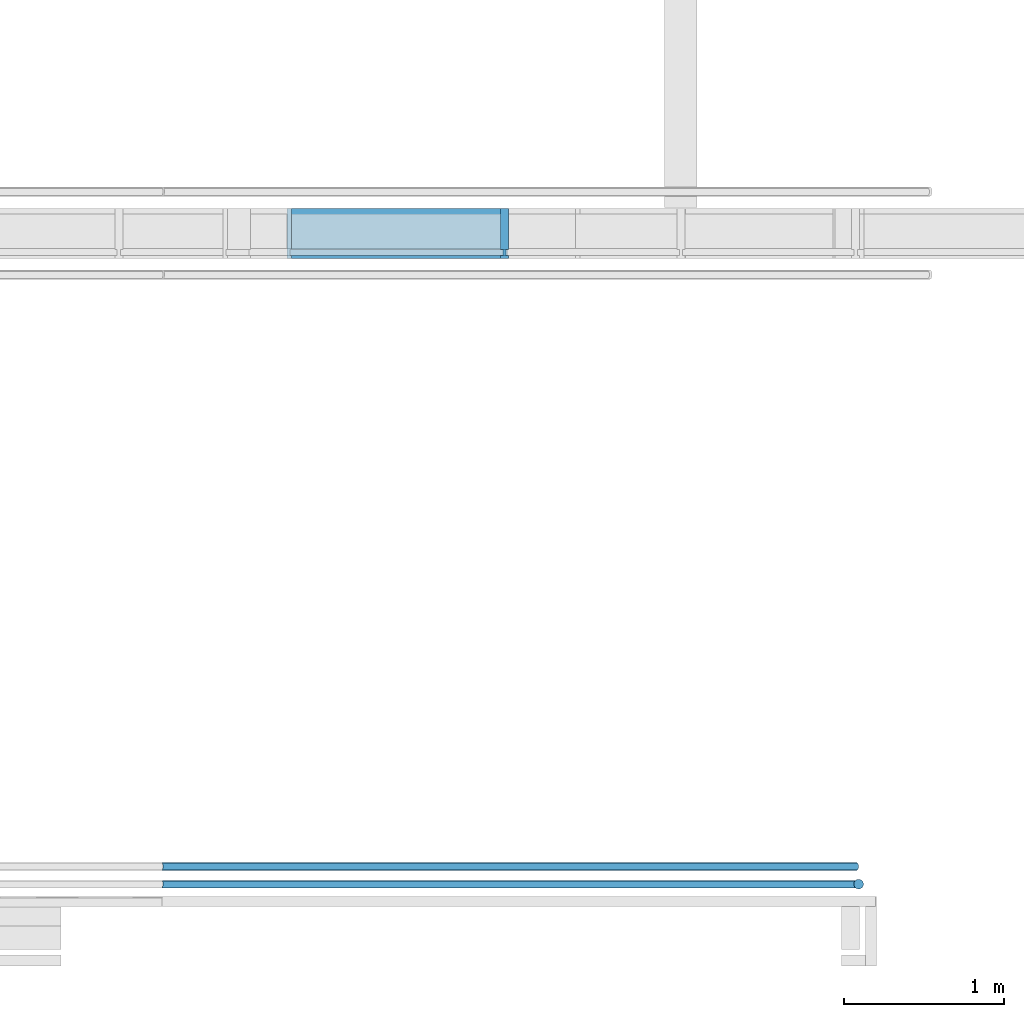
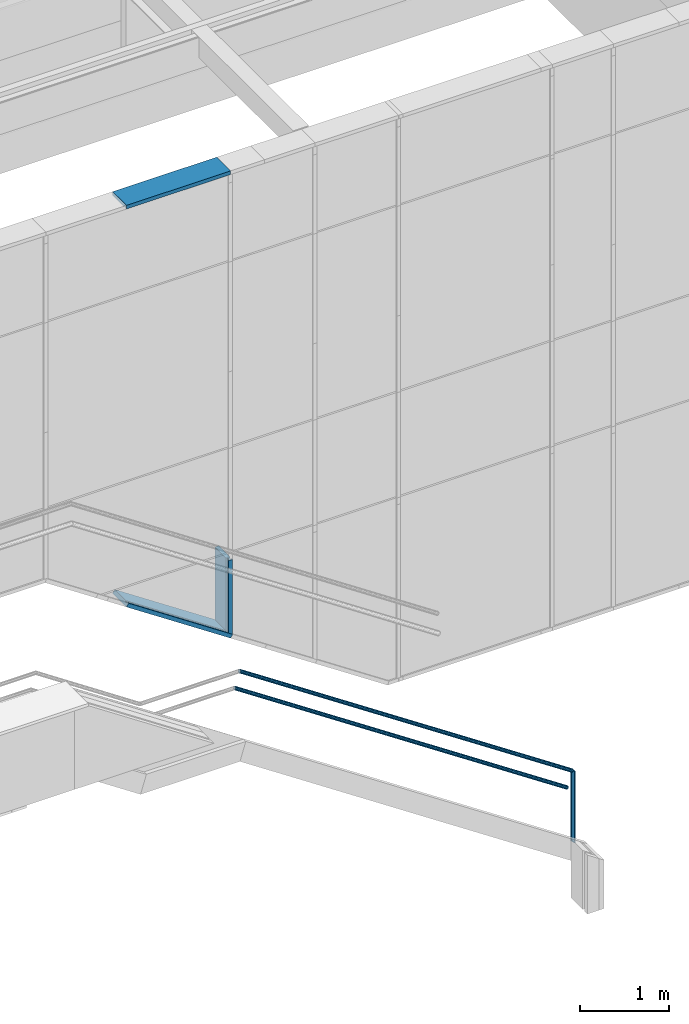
# One storey, part 16 of 137: 6 members, 2 elements without a shape of their own.
"""IFC2X3 building model written with IfcOpenShell, lengths in millimetres."""

import ifcopenshell
import ifcopenshell.guid

model = None  # the IFC model being written
_history = None  # IfcOwnerHistory: only IFC2X3 demands one
_inside = {}  # id of a spatial element -> (the spatial element, [elements in it])
_under = {}  # id of a project, library or spatial element -> (it, [spatial elements below it])
_declared = {}  # id of a project -> (the project, [libraries it declares])
_typed = {}  # id of a type object -> (the type object, [elements of that type])
_made_of = {}  # id of a material, layer set ... -> (it, [elements and type objects made of it])


def new_model(schema):
    """Start an empty IFC model of exactly this schema.

    Asked for "IFC4X3", IfcOpenShell would pick the latest addendum, in which some entities
    have other attributes; the version numbers below select the first issue.
    IFC2X3 requires an IfcOwnerHistory on every rooted entity: one is made here for all.
    """
    global model, _history
    if schema == "IFC4X3":
        model = ifcopenshell.file(schema_version=(4, 3, 0, 0))
    else:
        model = ifcopenshell.file(schema=schema)
    _inside.clear()
    _under.clear()
    _declared.clear()
    _typed.clear()
    _made_of.clear()
    _history = None
    if model.schema == "IFC2X3":
        org = make("IfcOrganization", Name="unknown")
        user = make(
            "IfcPersonAndOrganization",
            ThePerson=make("IfcPerson", FamilyName="unknown"),
            TheOrganization=org,
        )
        app = make(
            "IfcApplication",
            ApplicationDeveloper=org,
            Version="unknown",
            ApplicationFullName="unknown",
            ApplicationIdentifier="unknown",
        )
        _history = make(
            "IfcOwnerHistory",
            OwningUser=user,
            OwningApplication=app,
            ChangeAction="ADDED",
            CreationDate=0,
        )
    return model


def make(cls, **values):
    """One entity of the class cls with the attributes given. An attribute that is None is left unset."""
    return model.create_entity(
        cls, **{name: value for name, value in values.items() if value is not None}
    )


def entity(cls, *values):
    """Any entity or typed value of the class cls, its attributes in the order of the schema. None: left unset."""
    e = model.create_entity(cls)
    for i, value in enumerate(values):
        if value is not None:
            e[i] = value
    return e


def rooted(cls, **values):
    """An entity with a GlobalId (a new one), such as an element, a storey or a relation."""
    return make(cls, GlobalId=ifcopenshell.guid.new(), OwnerHistory=_history, **values)


def si_unit(unit_type, name, prefix=None):
    """IfcSIUnit, for example si_unit("LENGTHUNIT", "METRE", prefix="MILLI")."""
    return make("IfcSIUnit", UnitType=unit_type, Prefix=prefix, Name=name)


def converted_unit(unit_type, name, factor, base, dimensions=None, offset=None):
    """IfcConversionBasedUnit, such as the inch: factor (a typed value) times the base unit."""
    return make(
        "IfcConversionBasedUnit"
        if offset is None
        else "IfcConversionBasedUnitWithOffset",
        ConversionOffset=offset,
        Dimensions=None
        if dimensions is None
        else entity("IfcDimensionalExponents", *dimensions),
        UnitType=unit_type,
        Name=name,
        ConversionFactor=make(
            "IfcMeasureWithUnit", ValueComponent=factor, UnitComponent=base
        ),
    )


def derived_unit(unit_type, elements):
    """IfcDerivedUnit: a product of units, each with its exponent."""
    return make(
        "IfcDerivedUnit",
        Elements=[
            make("IfcDerivedUnitElement", Unit=unit, Exponent=power)
            for unit, power in elements
        ],
        UnitType=unit_type,
    )


def money_unit(currency):
    """IfcMonetaryUnit."""
    return make("IfcMonetaryUnit", Currency=currency)


def assignment(units):
    """IfcUnitAssignment: the units of a project."""
    return None if units is None else make("IfcUnitAssignment", Units=units)


def point(xyz):
    """IfcCartesianPoint."""
    return None if xyz is None else make("IfcCartesianPoint", Coordinates=xyz)


def direction(xyz):
    """IfcDirection."""
    return None if xyz is None else make("IfcDirection", DirectionRatios=xyz)


def frame(location, z_axis=None, x_axis=None):
    """IfcAxis2Placement3D, a coordinate frame: its origin and axes. An axis left out is left unset."""
    return make(
        "IfcAxis2Placement3D",
        Location=point(location),
        Axis=direction(z_axis),
        RefDirection=direction(x_axis),
    )


def origin_with_axes():
    """The frame at (0, 0, 0) with the z axis (0, 0, 1) and the x axis (1, 0, 0) written out."""
    return frame((0.0, 0.0, 0.0), z_axis=(0.0, 0.0, 1.0), x_axis=(1.0, 0.0, 0.0))


def place(relative_to, where):
    """IfcLocalPlacement: puts the frame where relative to a parent placement (None: the world)."""
    return make(
        "IfcLocalPlacement", PlacementRelTo=relative_to, RelativePlacement=where
    )


def context(
    kind, dimensions, precision=None, world=None, true_north=None, identifier=None
):
    """IfcGeometricRepresentationContext, for example the 3D "Model" context."""
    return make(
        "IfcGeometricRepresentationContext",
        ContextIdentifier=identifier,
        ContextType=kind,
        CoordinateSpaceDimension=dimensions,
        Precision=precision,
        WorldCoordinateSystem=world,
        TrueNorth=true_north,
    )


def subcontext(parent, identifier, kind, view, scale=None):
    """IfcGeometricRepresentationSubContext, for example "Body" below "Model"."""
    return make(
        "IfcGeometricRepresentationSubContext",
        ContextIdentifier=identifier,
        ContextType=kind,
        ParentContext=parent,
        TargetScale=scale,
        TargetView=view,
    )


def project(units=None, contexts=None):
    """IfcProject with its units and contexts."""
    return rooted(
        "IfcProject",
        Name="project",
        RepresentationContexts=contexts,
        UnitsInContext=assignment(units),
    )


def spatial(cls, under=None, at=None, **own):
    """A site, building, storey or space (cls), placed at a placement, below another one or the project."""
    s = rooted(cls, ObjectPlacement=at, **own)
    if under is not None:
        _under.setdefault(under.id(), (under, []))[1].append(s)
    return s


def faces_of(points, faces, orient=None, outer=None):
    """IfcFace entities. A face is a list of loops; a loop is a list of indices into points, from 0.

    orient and outer hold one flag for each loop. By default every Orientation is true, the
    first loop of a face is its IfcFaceOuterBound and the others are IfcFaceBound.
    """
    made = []
    for i, loops in enumerate(faces):
        bounds = []
        for j, loop in enumerate(loops):
            is_outer = j == 0 if outer is None else outer[i][j]
            bounds.append(
                make(
                    "IfcFaceOuterBound" if is_outer else "IfcFaceBound",
                    Bound=make("IfcPolyLoop", Polygon=[points[k] for k in loop]),
                    Orientation=True if orient is None else orient[i][j],
                )
            )
        made.append(make("IfcFace", Bounds=bounds))
    return made


def faceted_brep(points, faces, orient=None, outer=None, voids=None):
    """IfcFacetedBrep: a solid bounded by flat faces; with voids (closed shells), ...WithVoids."""
    shared = [point(p) for p in points]
    hull = make("IfcClosedShell", CfsFaces=faces_of(shared, faces, orient, outer))
    if voids is None:
        return make("IfcFacetedBrep", Outer=hull)
    return make(
        "IfcFacetedBrepWithVoids",
        Outer=hull,
        Voids=[
            make(cls, CfsFaces=faces_of(shared, fs, o, b)) for cls, fs, o, b in voids
        ],
    )


def shape(context_of_items, identifier, shape_type, items):
    """IfcShapeRepresentation: the items that make up one representation, for example the "Body"."""
    return make(
        "IfcShapeRepresentation",
        ContextOfItems=context_of_items,
        RepresentationIdentifier=identifier,
        RepresentationType=shape_type,
        Items=items,
    )


def material(Name=None, Category=None):
    """IfcMaterial."""
    return make("IfcMaterial", Name=Name, Category=Category)


def made_of(thing, what):
    """Note that an element or type object is made of a material, layer set ...; save() writes the relation."""
    if what is not None:
        _made_of.setdefault(what.id(), (what, []))[1].append(thing)
    return thing


def type_object(cls, material=None, **own):
    """A type object (cls), such as IfcWallType, which elements share."""
    return made_of(rooted(cls, **own), material)


def element(
    cls,
    number,
    at=None,
    inside=None,
    cuts=None,
    type_object=None,
    material=None,
    context=None,
    identifier="Body",
    shape_type=None,
    held_by="IfcProductDefinitionShape",
    body=None,
    shapes=None,
    **own,
):
    """One element of the class cls, such as IfcWall. Its Tag is "e" and its number.

    at: its placement. inside: the storey or other place that contains it. cuts: it is an
    opening in that element (IfcRelVoidsElement). A single representation is given by context,
    identifier, shape_type and body (its items); several are given by shapes. held_by: the class
    of the entity that holds the representations. save() writes the other relations.
    """
    e = rooted(cls, Tag="e%d" % number, ObjectPlacement=at, **own)
    if body is not None:
        shapes = [shape(context, identifier, shape_type, body)]
    if shapes is not None:
        e.Representation = make(held_by, Representations=shapes)
    if inside is not None:
        _inside.setdefault(inside.id(), (inside, []))[1].append(e)
    if cuts is not None:
        rooted(
            "IfcRelVoidsElement", RelatingBuildingElement=cuts, RelatedOpeningElement=e
        )
    if type_object is not None:
        _typed.setdefault(type_object.id(), (type_object, []))[1].append(e)
    return made_of(e, material)


def aggregate(whole, parts):
    """IfcRelAggregates: a whole, such as a stair, and the parts it consists of."""
    return rooted("IfcRelAggregates", RelatingObject=whole, RelatedObjects=parts)


def save(model, path):
    """Write the relations noted so far, then the file.

    IfcRelAggregates (storeys below a building ...), IfcRelContainedInSpatialStructure (elements
    in a storey), IfcRelDefinesByType, IfcRelAssociatesMaterial and IfcRelDeclares: one each for
    every whole, place, type object, material and project.
    """
    for whole, parts in _under.values():
        aggregate(whole, parts)
    for where, things in _inside.values():
        rooted(
            "IfcRelContainedInSpatialStructure",
            RelatedElements=things,
            RelatingStructure=where,
        )
    for kind, things in _typed.values():
        rooted("IfcRelDefinesByType", RelatedObjects=things, RelatingType=kind)
    for what, things in _made_of.values():
        rooted("IfcRelAssociatesMaterial", RelatedObjects=things, RelatingMaterial=what)
    for by, libraries in _declared.values():
        rooted("IfcRelDeclares", RelatingContext=by, RelatedDefinitions=libraries)
    model.write(path)


model = new_model("IFC2X3")

# Units and contexts
model_context = context("Model", 3, precision=0.01, world=origin_with_axes(), true_north=direction((0.0, 1.0)))
body_context = subcontext(model_context, "Body", "Model", "MODEL_VIEW")
ifc_project = project(units=[si_unit("LENGTHUNIT", "METRE", prefix="MILLI"), si_unit("AREAUNIT", "SQUARE_METRE"), si_unit("VOLUMEUNIT", "CUBIC_METRE"), converted_unit("PLANEANGLEUNIT", "DEGREE", entity("IfcPlaneAngleMeasure", 0.0174532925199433), si_unit("PLANEANGLEUNIT", "RADIAN"), dimensions=[0, 0, 0, 0, 0, 0, 0]), money_unit("EUR"), converted_unit("TIMEUNIT", "Year", entity("IfcTimeMeasure", 31556926.0), si_unit("TIMEUNIT", "SECOND"), dimensions=[0, 0, 1, 0, 0, 0, 0]), si_unit("MASSUNIT", "GRAM", prefix="KILO"), si_unit("THERMODYNAMICTEMPERATUREUNIT", "DEGREE_CELSIUS"), si_unit("LUMINOUSINTENSITYUNIT", "LUMEN"), si_unit("ENERGYUNIT", "JOULE", prefix="MEGA"), derived_unit("THERMALCONDUCTANCEUNIT", [(si_unit("POWERUNIT", "WATT"), 1), (si_unit("LENGTHUNIT", "METRE"), -1), (si_unit("THERMODYNAMICTEMPERATUREUNIT", "KELVIN"), -1)]), derived_unit("SPECIFICHEATCAPACITYUNIT", [(si_unit("ENERGYUNIT", "JOULE"), 1), (si_unit("MASSUNIT", "GRAM", prefix="KILO"), -1), (si_unit("THERMODYNAMICTEMPERATUREUNIT", "KELVIN"), -1)]), derived_unit("MASSDENSITYUNIT", [(si_unit("MASSUNIT", "GRAM", prefix="KILO"), 1), (si_unit("VOLUMEUNIT", "CUBIC_METRE"), -1)])], contexts=[model_context])

# Site, building, storey
site_placement = place(None, origin_with_axes())
site = spatial("IfcSite", under=ifc_project, at=site_placement, Name="Site", CompositionType="ELEMENT")
building_placement = place(site_placement, origin_with_axes())
building = spatial("IfcBuilding", under=site, at=building_placement, Name="Naam gebouw", CompositionType="ELEMENT")
storey_placement = place(building_placement, frame((0.0, 0.0, 3960.0), z_axis=(0.0, 0.0, 1.0), x_axis=(1.0, 0.0, 0.0)))
storey = spatial("IfcBuildingStorey", under=building, at=storey_placement, Name="1e verdieping", CompositionType="ELEMENT", Elevation=3960.0)

# Railing, members
railing_type = type_object("IfcRailingType", Name="Railing Type", PredefinedType="NOTDEFINED")
railing_placement = place(storey_placement, frame((12900.00010768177, 231.9997137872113, -3791.995884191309), z_axis=(0.0, 0.0, 1.0), x_axis=(1.0, 0.0, 0.0)))
railing = element("IfcRailing", 1, at=railing_placement, inside=storey, type_object=railing_type, Name="34_Reling-x", PredefinedType="NOTDEFINED")
ifc_material_1 = material(Name="Metaal - RVS")
member_type_1 = type_object("IfcMemberType", Name="IfcMember", PredefinedType="USERDEFINED")
member_1_placement = place(railing_placement, frame((3738.971533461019, 140.0001738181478, 645.9989583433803), z_axis=(0.0, 0.0, 1.0), x_axis=(1.0, 0.0, 0.0)))
member_1 = element("IfcMember", 2, at=member_1_placement, type_object=member_type_1, material=ifc_material_1, Name="h3 Staal legeringen_Handregel-x", context=body_context, shape_type="Brep", body=[
    faceted_brep([(-2176.283632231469, 24.14989900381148, 2921.813150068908), (-2175.013911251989, 23.78300629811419, 2926.006753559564), (2157.901781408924, 23.78320737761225, 37.39631602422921), (2155.575588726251, 24.15010003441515, 33.90702699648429), (-2177.553353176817, 23.7830061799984, 2917.619546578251), (-2178.784494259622, 22.69347567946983, 2913.553363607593), (-2179.939647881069, 20.91441233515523, 2909.738150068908), (-2180.983715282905, 18.49987208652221, 2906.289829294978), (-2181.884973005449, 15.52321951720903, 2903.313176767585), (-2182.616036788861, 12.07489870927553, 2900.898636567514), (-2183.154693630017, 8.259685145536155, 2899.119573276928), (-2183.484576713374, 4.193502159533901, 2898.030042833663), (-2183.595662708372, -0.0001013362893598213, 2897.663150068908), (-2183.484576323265, -4.193704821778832, 2898.030042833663), (-2183.154692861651, -8.259887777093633, 2899.119573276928), (-2182.616035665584, -12.07510129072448, 2900.898636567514), (-2181.884971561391, -15.52342203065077, 2903.313176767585), (-2180.983713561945, -18.5000745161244, 2906.289829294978), (-2179.939645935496, -20.91461466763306, 2909.738150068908), (-2178.784492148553, -22.6936779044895, 2913.553363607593), (-2177.553350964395, -23.78320829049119, 2917.619546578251), (-2176.283629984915, -24.15010099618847, 2921.813150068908), (-2175.013909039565, -23.78320817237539, 2926.006753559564), (-2173.782767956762, -22.69367767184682, 2930.072936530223), (-2172.627614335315, -20.91461432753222, 2933.888150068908), (-2171.58354693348, -18.50007407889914, 2937.336470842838), (-2170.682289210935, -15.52342150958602, 2940.313123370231), (-2169.951225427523, -12.07510070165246, 2942.727663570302), (-2169.412568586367, -8.259887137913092, 2944.506726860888), (-2169.08268550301, -4.193704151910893, 2945.596257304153), (-2168.971599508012, -0.0001006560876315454, 2945.963150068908), (-2169.08268589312, 4.19350282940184, 2945.596257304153), (-2169.412569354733, 8.259685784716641, 2944.506726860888), (-2169.951226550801, 12.07489929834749, 2942.727663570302), (-2170.682290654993, 15.52322003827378, 2940.313123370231), (-2171.583548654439, 18.49987252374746, 2937.336470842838), (-2172.627616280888, 20.91441267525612, 2933.888150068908), (-2173.782770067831, 22.69347591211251, 2930.072936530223), (2160.157293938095, 22.69367703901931, 40.77958477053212), (2162.273593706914, 20.91461384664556, 43.95403432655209), (2164.186378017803, 18.50007373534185, 46.82321064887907), (2165.837527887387, 15.52342128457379, 49.29993526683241), (2167.176873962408, 12.07510057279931, 51.30895415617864), (2168.163720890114, 8.259887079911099, 52.78922429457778), (2168.768083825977, 4.193704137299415, 53.69576842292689), (2168.971599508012, 0.0001006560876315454, 54.0010416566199), (2168.768084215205, -4.193502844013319, 53.69576842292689), (2168.163721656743, -8.259685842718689, 52.78922429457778), (2167.176875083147, -12.07489942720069, 51.30895415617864), (2165.837529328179, -15.52322026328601, 49.29993526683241), (2164.186379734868, -18.49987286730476, 46.82321064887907), (2162.273595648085, -20.91441315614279, 43.95403432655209), (2160.157296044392, -22.69347654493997, 40.77958477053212), (2157.901783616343, -23.78300709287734, 37.39631602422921), (2155.575590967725, -24.14989996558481, 33.90702699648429), (2153.249398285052, -23.78300730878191, 30.41773796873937), (2150.993885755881, -22.69347697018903, 27.03446922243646), (2148.877585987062, -20.91441377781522, 23.86001966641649), (2146.964801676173, -18.49987366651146, 20.99084334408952), (2145.313651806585, -15.52322121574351, 18.51411872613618), (2143.974305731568, -12.07490050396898, 16.50509983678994), (2142.987458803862, -8.259687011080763, 15.02482969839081), (2142.383095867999, -4.193504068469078, 14.11828557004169), (2142.179580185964, 9.941274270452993e-05, 13.81301233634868), (2142.38309547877, 4.193702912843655, 14.11828557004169), (2142.987458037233, 8.259885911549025, 15.02482969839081), (2143.974304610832, 12.07509949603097, 16.50509983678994), (2145.313650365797, 15.52342033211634, 18.51411872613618), (2146.964799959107, 18.50007293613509, 20.99084334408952), (2148.877584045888, 20.91461322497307, 23.86001966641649), (2150.993883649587, 22.69367661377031, 27.03446922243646), (2153.249396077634, 23.78320716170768, 30.41773796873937)], [[[0, 1, 2, 3]], [[0, 4, 5, 6, 7, 8, 9, 10, 11, 12, 13, 14, 15, 16, 17, 18, 19, 20, 21, 22, 23, 24, 25, 26, 27, 28, 29, 30, 31, 32, 33, 34, 35, 36, 37, 1]], [[1, 37, 38, 2]], [[3, 2, 38, 39, 40, 41, 42, 43, 44, 45, 46, 47, 48, 49, 50, 51, 52, 53, 54, 55, 56, 57, 58, 59, 60, 61, 62, 63, 64, 65, 66, 67, 68, 69, 70, 71]], [[4, 0, 3, 71]], [[5, 4, 71, 70]], [[6, 5, 70, 69]], [[7, 6, 69, 68]], [[8, 7, 68, 67]], [[9, 8, 67, 66]], [[10, 9, 66, 65]], [[11, 10, 65, 64]], [[12, 11, 64, 63]], [[13, 12, 63, 62]], [[14, 13, 62, 61]], [[15, 14, 61, 60]], [[16, 15, 60, 59]], [[17, 16, 59, 58]], [[18, 17, 58, 57]], [[19, 18, 57, 56]], [[20, 19, 56, 55]], [[21, 20, 55, 54]], [[22, 21, 54, 53]], [[23, 22, 53, 52]], [[24, 23, 52, 51]], [[25, 24, 51, 50]], [[26, 25, 50, 49]], [[27, 26, 49, 48]], [[28, 27, 48, 47]], [[29, 28, 47, 46]], [[30, 29, 46, 45]], [[31, 30, 45, 44]], [[32, 31, 44, 43]], [[33, 32, 43, 42]], [[34, 33, 42, 41]], [[35, 34, 41, 40]], [[36, 35, 40, 39]], [[37, 36, 39, 38]]]),
])
member_2_placement = place(railing_placement, frame((3738.971538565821, 30.0001738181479, 945.9989583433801), z_axis=(0.0, 0.0, 1.0), x_axis=(1.0, 0.0, 0.0)))
member_2 = element("IfcMember", 3, at=member_2_placement, type_object=member_type_1, material=ifc_material_1, Name="h3 Staal legeringen_", context=body_context, shape_type="Brep", body=[
    faceted_brep([(-2176.283632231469, 24.14989900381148, 2921.813150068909), (-2175.013911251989, 23.78300629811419, 2926.006753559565), (2157.901781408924, 23.78320737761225, 37.39631602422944), (2155.575588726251, 24.15010003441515, 33.90702699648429), (-2177.553353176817, 23.7830061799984, 2917.619546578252), (-2178.784494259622, 22.69347567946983, 2913.553363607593), (-2179.939647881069, 20.91441233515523, 2909.738150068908), (-2180.983715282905, 18.49987208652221, 2906.289829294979), (-2181.884973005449, 15.52321951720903, 2903.313176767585), (-2182.616036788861, 12.07489870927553, 2900.898636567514), (-2183.154693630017, 8.259685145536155, 2899.119573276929), (-2183.484576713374, 4.193502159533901, 2898.030042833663), (-2183.595662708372, -0.0001013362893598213, 2897.663150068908), (-2183.484576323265, -4.193704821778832, 2898.030042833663), (-2183.154692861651, -8.259887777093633, 2899.119573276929), (-2182.616035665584, -12.07510129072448, 2900.898636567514), (-2181.884971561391, -15.52342203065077, 2903.313176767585), (-2180.983713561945, -18.50007451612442, 2906.289829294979), (-2179.939645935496, -20.91461466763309, 2909.738150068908), (-2178.784492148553, -22.6936779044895, 2913.553363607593), (-2177.553350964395, -23.78320829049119, 2917.619546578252), (-2176.283629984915, -24.15010099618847, 2921.813150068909), (-2175.013909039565, -23.78320817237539, 2926.006753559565), (-2173.782767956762, -22.69367767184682, 2930.072936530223), (-2172.627614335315, -20.91461432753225, 2933.888150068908), (-2171.58354693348, -18.50007407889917, 2937.336470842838), (-2170.682289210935, -15.52342150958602, 2940.313123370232), (-2169.951225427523, -12.07510070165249, 2942.727663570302), (-2169.412568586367, -8.259887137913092, 2944.506726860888), (-2169.08268550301, -4.193704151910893, 2945.596257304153), (-2168.971599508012, -0.0001006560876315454, 2945.963150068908), (-2169.08268589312, 4.19350282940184, 2945.596257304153), (-2169.412569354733, 8.259685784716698, 2944.506726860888), (-2169.951226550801, 12.07489929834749, 2942.727663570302), (-2170.682290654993, 15.52322003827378, 2940.313123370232), (-2171.583548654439, 18.49987252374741, 2937.336470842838), (-2172.627616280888, 20.91441267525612, 2933.888150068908), (-2173.782770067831, 22.69347591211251, 2930.072936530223), (2160.157293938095, 22.69367703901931, 40.7795847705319), (2162.273593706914, 20.91461384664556, 43.95403432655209), (2164.186378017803, 18.50007373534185, 46.82321064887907), (2165.837527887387, 15.52342128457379, 49.29993526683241), (2167.176873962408, 12.07510057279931, 51.30895415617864), (2168.163720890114, 8.259887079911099, 52.78922429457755), (2168.768083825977, 4.193704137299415, 53.69576842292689), (2168.971599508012, 0.0001006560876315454, 54.0010416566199), (2168.768084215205, -4.193502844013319, 53.69576842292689), (2168.163721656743, -8.259685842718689, 52.78922429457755), (2167.176875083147, -12.07489942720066, 51.30895415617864), (2165.837529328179, -15.52322026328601, 49.29993526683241), (2164.186379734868, -18.49987286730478, 46.82321064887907), (2162.273595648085, -20.91441315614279, 43.95403432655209), (2160.157296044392, -22.69347654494, 40.7795847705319), (2157.901783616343, -23.78300709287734, 37.39631602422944), (2155.575590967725, -24.14989996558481, 33.90702699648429), (2153.249398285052, -23.78300730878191, 30.41773796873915), (2150.993885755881, -22.693476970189, 27.03446922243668), (2148.877585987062, -20.91441377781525, 23.86001966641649), (2146.964801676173, -18.49987366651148, 20.99084334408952), (2145.313651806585, -15.52322121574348, 18.51411872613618), (2143.974305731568, -12.07490050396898, 16.50509983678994), (2142.987458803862, -8.259687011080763, 15.02482969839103), (2142.383095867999, -4.193504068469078, 14.11828557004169), (2142.179580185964, 9.941274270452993e-05, 13.81301233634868), (2142.38309547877, 4.193702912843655, 14.11828557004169), (2142.987458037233, 8.259885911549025, 15.02482969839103), (2143.974304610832, 12.07509949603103, 16.50509983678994), (2145.313650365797, 15.52342033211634, 18.51411872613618), (2146.964799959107, 18.50007293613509, 20.99084334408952), (2148.877584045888, 20.91461322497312, 23.86001966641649), (2150.993883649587, 22.69367661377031, 27.03446922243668), (2153.249396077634, 23.78320716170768, 30.41773796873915)], [[[0, 1, 2, 3]], [[0, 4, 5, 6, 7, 8, 9, 10, 11, 12, 13, 14, 15, 16, 17, 18, 19, 20, 21, 22, 23, 24, 25, 26, 27, 28, 29, 30, 31, 32, 33, 34, 35, 36, 37, 1]], [[1, 37, 38, 2]], [[3, 2, 38, 39, 40, 41, 42, 43, 44, 45, 46, 47, 48, 49, 50, 51, 52, 53, 54, 55, 56, 57, 58, 59, 60, 61, 62, 63, 64, 65, 66, 67, 68, 69, 70, 71]], [[4, 0, 3, 71]], [[5, 4, 71, 70]], [[6, 5, 70, 69]], [[7, 6, 69, 68]], [[8, 7, 68, 67]], [[9, 8, 67, 66]], [[10, 9, 66, 65]], [[11, 10, 65, 64]], [[12, 11, 64, 63]], [[13, 12, 63, 62]], [[14, 13, 62, 61]], [[15, 14, 61, 60]], [[16, 15, 60, 59]], [[17, 16, 59, 58]], [[18, 17, 58, 57]], [[19, 18, 57, 56]], [[20, 19, 56, 55]], [[21, 20, 55, 54]], [[22, 21, 54, 53]], [[23, 22, 53, 52]], [[24, 23, 52, 51]], [[25, 24, 51, 50]], [[26, 25, 50, 49]], [[27, 26, 49, 48]], [[28, 27, 48, 47]], [[29, 28, 47, 46]], [[30, 29, 46, 45]], [[31, 30, 45, 44]], [[32, 31, 44, 43]], [[33, 32, 43, 42]], [[34, 33, 42, 41]], [[35, 34, 41, 40]], [[36, 35, 40, 39]], [[37, 36, 39, 38]]]),
])
member_type_2 = type_object("IfcMemberType", Name="IfcMember", PredefinedType="POST")
member_3_placement = place(railing_placement, frame((5907.943138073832, 30.00027447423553, 0.0), z_axis=(0.0, 0.0, 1.0), x_axis=(1.0, 0.0, 0.0)))
member_3 = element("IfcMember", 4, at=member_3_placement, type_object=member_type_2, material=ifc_material_1, Name="h3 Staal legeringen_", ObjectType="POST", context=body_context, shape_type="Brep", body=[
    faceted_brep([(-30.00000000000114, -1.392218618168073e-06, 19.99999983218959), (-29.54423234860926, -5.209446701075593, 19.69615489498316), (-29.54423234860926, -5.209446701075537, 999.6961548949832), (-30.00000000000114, -1.392218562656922e-06, 999.9999998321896), (-29.54423283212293, 5.209443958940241, 19.69615489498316), (-28.1907790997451, 10.26060299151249, 18.79385225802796), (-25.98076280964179, 14.9999987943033, 17.32050793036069), (-22.98133418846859, 19.28362722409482, 15.32088873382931), (-19.28362935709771, 22.98133239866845, 12.85575208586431), (-15.00000120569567, 25.98076141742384, 9.999999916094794), (-10.26060560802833, 28.19077814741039, 6.840402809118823), (-5.209446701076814, 29.54423234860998, 3.472963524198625), (-1.392219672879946e-06, 29.99999999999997, 0.0), (5.20944395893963, 29.54423283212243, -3.472963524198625), (10.26060299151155, 28.19077909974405, -6.840402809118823), (14.99999879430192, 25.98076280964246, -9.999999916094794), (19.2836272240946, 22.9813341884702, -12.85575208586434), (22.98133239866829, 19.28362935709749, -15.32088873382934), (25.98076141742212, 15.00000120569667, -17.32050793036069), (28.19077814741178, 10.26060560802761, -18.79385225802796), (29.54423234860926, 5.209446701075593, -19.69615489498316), (30.00000000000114, 1.392218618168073e-06, -19.99999983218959), (29.54423283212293, -5.209443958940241, -19.69615489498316), (28.1907790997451, -10.26060299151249, -18.79385225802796), (25.98076280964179, -14.9999987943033, -17.32050793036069), (22.98133418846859, -19.28362722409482, -15.32088873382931), (19.28362935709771, -22.98133239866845, -12.85575208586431), (15.00000120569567, -25.98076141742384, -9.999999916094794), (10.26060560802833, -28.19077814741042, -6.840402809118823), (5.209446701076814, -29.54423234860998, -3.472963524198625), (1.392219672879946e-06, -29.99999999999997, 0.0), (-5.20944395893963, -29.54423283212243, 3.472963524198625), (-10.26060299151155, -28.19077909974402, 6.840402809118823), (-14.99999879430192, -25.98076280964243, 9.999999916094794), (-19.2836272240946, -22.98133418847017, 12.85575208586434), (-22.98133239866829, -19.28362935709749, 15.32088873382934), (-25.98076141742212, -15.00000120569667, 17.32050793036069), (-28.19077814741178, -10.26060560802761, 18.79385225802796), (-28.19077814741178, -10.26060560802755, 998.793852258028), (-25.98076141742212, -15.00000120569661, 997.3205079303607), (-22.98133239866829, -19.28362935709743, 995.3208887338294), (-19.2836272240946, -22.98133418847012, 992.8557520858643), (-14.99999879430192, -25.98076280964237, 989.9999999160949), (-10.26060299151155, -28.19077909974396, 986.8404028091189), (-5.20944395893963, -29.54423283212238, 983.4729635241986), (1.392219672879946e-06, -29.99999999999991, 980.0), (5.209446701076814, -29.54423234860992, 976.5270364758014), (10.26060560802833, -28.19077814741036, 973.1595971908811), (15.00000120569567, -25.98076141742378, 970.0000000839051), (19.28362935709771, -22.9813323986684, 967.1442479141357), (22.98133418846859, -19.28362722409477, 964.6791112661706), (25.98076280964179, -14.99999879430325, 962.6794920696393), (28.1907790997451, -10.26060299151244, 961.206147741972), (29.54423283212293, -5.209443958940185, 960.3038451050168), (30.00000000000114, 1.392218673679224e-06, 960.0000001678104), (29.54423234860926, 5.209446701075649, 960.3038451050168), (28.19077814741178, 10.26060560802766, 961.206147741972), (25.98076141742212, 15.00000120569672, 962.6794920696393), (22.98133239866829, 19.28362935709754, 964.6791112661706), (19.2836272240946, 22.98133418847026, 967.1442479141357), (14.99999879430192, 25.98076280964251, 970.0000000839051), (10.26060299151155, 28.1907790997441, 973.1595971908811), (5.20944395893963, 29.54423283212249, 976.5270364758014), (-1.392219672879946e-06, 30.00000000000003, 980.0), (-5.209446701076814, 29.54423234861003, 983.4729635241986), (-10.26060560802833, 28.19077814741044, 986.8404028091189), (-15.00000120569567, 25.98076141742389, 989.9999999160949), (-19.28362935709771, 22.98133239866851, 992.8557520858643), (-22.98133418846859, 19.28362722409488, 995.3208887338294), (-25.98076280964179, 14.99999879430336, 997.3205079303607), (-28.1907790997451, 10.26060299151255, 998.793852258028), (-29.54423283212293, 5.209443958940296, 999.6961548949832)], [[[0, 1, 2, 3]], [[0, 4, 5, 6, 7, 8, 9, 10, 11, 12, 13, 14, 15, 16, 17, 18, 19, 20, 21, 22, 23, 24, 25, 26, 27, 28, 29, 30, 31, 32, 33, 34, 35, 36, 37, 1]], [[1, 37, 38, 2]], [[3, 2, 38, 39, 40, 41, 42, 43, 44, 45, 46, 47, 48, 49, 50, 51, 52, 53, 54, 55, 56, 57, 58, 59, 60, 61, 62, 63, 64, 65, 66, 67, 68, 69, 70, 71]], [[4, 0, 3, 71]], [[5, 4, 71, 70]], [[6, 5, 70, 69]], [[7, 6, 69, 68]], [[8, 7, 68, 67]], [[9, 8, 67, 66]], [[10, 9, 66, 65]], [[11, 10, 65, 64]], [[12, 11, 64, 63]], [[13, 12, 63, 62]], [[14, 13, 62, 61]], [[15, 14, 61, 60]], [[16, 15, 60, 59]], [[17, 16, 59, 58]], [[18, 17, 58, 57]], [[19, 18, 57, 56]], [[20, 19, 56, 55]], [[21, 20, 55, 54]], [[22, 21, 54, 53]], [[23, 22, 53, 52]], [[24, 23, 52, 51]], [[25, 24, 51, 50]], [[26, 25, 50, 49]], [[27, 26, 49, 48]], [[28, 27, 48, 47]], [[29, 28, 47, 46]], [[30, 29, 46, 45]], [[31, 30, 45, 44]], [[32, 31, 44, 43]], [[33, 32, 43, 42]], [[34, 33, 42, 41]], [[35, 34, 41, 40]], [[36, 35, 40, 39]], [[37, 36, 39, 38]]]),
])
aggregate(railing, [member_3, member_1, member_2])

# Curtain wall, members
curtain_wall_type = type_object("IfcCurtainWallType", Name="Curtain Wall Type", PredefinedType="NOTDEFINED")
curtain_wall_placement = place(storey_placement, frame((8473.014787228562, 4364.43626274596, -3949.999921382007), z_axis=(0.0, 0.0, 1.0), x_axis=(1.0, 0.0, 0.0)))
curtain_wall = element("IfcCurtainWall", 5, at=curtain_wall_placement, inside=storey, type_object=curtain_wall_type, Name="21_Vliesgevel-x")
ifc_material_2 = material(Name="Metaal - Staal AFW")
member_type_3 = type_object("IfcMemberType", Name="Boundary Frame 50 x 313", PredefinedType="MULLION")
member_4_placement = place(curtain_wall_placement, frame((6769.941645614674, -161.4362627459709, 2269.312768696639), z_axis=(0.8320502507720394, 0.0, -0.5547002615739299), x_axis=(0.5547002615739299, 0.0, 0.8320502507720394)))
member_4 = element("IfcMember", 6, at=member_4_placement, type_object=member_type_3, material=ifc_material_2, Name="h METAAL_Kader-x", ObjectType="MULLION", context=body_context, shape_type="Brep", body=[
    faceted_brep([(35.00000000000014, -17.4000000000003, -6.096398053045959e-06), (35.00000000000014, 20.99999999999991, -6.096398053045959e-06), (34.99999999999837, 20.99999999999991, 1630.9568872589), (34.99999999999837, -17.39999999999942, 1630.9568872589), (15.00000000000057, -17.4000000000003, -6.096398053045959e-06), (15.00000000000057, 20.99999999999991, -6.096398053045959e-06), (15.00000000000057, 20.99999999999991, 1630.9568872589), (15.00000000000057, -17.39999999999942, 1630.9568872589)], [[[0, 1, 2, 3]], [[0, 4, 5, 1]], [[1, 5, 6, 2]], [[3, 2, 6, 7]], [[4, 0, 3, 7]], [[5, 4, 7, 6]]]),
    faceted_brep([(15.00000000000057, -20.99999999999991, -6.096398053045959e-06), (15.00000000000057, 20.99999999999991, -6.096398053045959e-06), (15.00000000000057, 20.99999999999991, 1630.9568872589), (15.00000000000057, -20.99999999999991, 1630.9568872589), (0.0, -20.99999999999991, -6.09639627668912e-06), (0.0, 20.99999999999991, -6.09639627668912e-06), (0.0, 20.99999999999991, 1630.9568872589), (0.0, -20.99999999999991, 1630.9568872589)], [[[0, 1, 2, 3]], [[0, 4, 5, 1]], [[1, 5, 6, 2]], [[3, 2, 6, 7]], [[4, 0, 3, 7]], [[5, 4, 7, 6]]]),
    faceted_brep([(50.00000000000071, -272.0000000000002, -6.09639627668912e-06), (50.00000000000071, -17.4000000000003, -6.09639627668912e-06), (50.00000000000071, -17.39999999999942, 1630.9568872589), (50.00000000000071, -272.0000000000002, 1630.9568872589), (0.0, -272.0000000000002, -6.09639627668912e-06), (0.0, -17.4000000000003, -6.09639627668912e-06), (0.0, -17.39999999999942, 1630.9568872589), (0.0, -272.0000000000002, 1630.9568872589)], [[[0, 1, 2, 3]], [[0, 4, 5, 1]], [[1, 5, 6, 2]], [[3, 2, 6, 7]], [[4, 0, 3, 7]], [[5, 4, 7, 6]]]),
    faceted_brep([(0.0, 41.00000000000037, -6.09639627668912e-06), (0.0, 20.99999999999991, -6.09639627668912e-06), (0.0, 20.99999999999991, 1630.9568872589), (0.0, 41.00000000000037, 1630.9568872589), (50.00000000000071, 41.00000000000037, -6.09639627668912e-06), (50.00000000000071, 20.99999999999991, -6.09639627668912e-06), (50.00000000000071, 20.99999999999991, 1630.9568872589), (50.00000000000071, 41.00000000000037, 1630.9568872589)], [[[0, 1, 2, 3]], [[0, 4, 5, 1]], [[1, 5, 6, 2]], [[3, 2, 6, 7]], [[4, 0, 3, 7]], [[5, 4, 7, 6]]]),
])
member_5_placement = place(curtain_wall_placement, frame((6769.941645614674, -161.4362627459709, 7800.000020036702), z_axis=(1.0, 0.0, 0.0), x_axis=(0.0, 0.0, 1.0)))
member_5 = element("IfcMember", 7, at=member_5_placement, type_object=member_type_3, material=ifc_material_2, Name="h METAAL_Kader-x", ObjectType="MULLION", context=body_context, shape_type="Brep", body=[
    faceted_brep([(-35.00000000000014, -17.4000000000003, 0.0), (-35.00000000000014, -17.4000000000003, 1357.038055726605), (-35.00000000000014, 20.99999999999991, 1357.038055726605), (-35.00000000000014, 20.99999999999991, 0.0), (-14.99999999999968, -17.4000000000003, 0.0), (-14.99999999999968, -17.4000000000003, 1357.038055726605), (-14.99999999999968, 20.99999999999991, 1357.038055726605), (-14.99999999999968, 20.99999999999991, 0.0)], [[[0, 1, 2, 3]], [[4, 5, 1, 0]], [[1, 5, 6, 2]], [[3, 2, 6, 7]], [[0, 3, 7, 4]], [[7, 6, 5, 4]]]),
    faceted_brep([(-14.99999999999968, -20.99999999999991, 0.0), (-14.99999999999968, -20.99999999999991, 1357.038055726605), (-14.99999999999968, 20.99999999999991, 1357.038055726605), (-14.99999999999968, 20.99999999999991, 0.0), (0.0, -20.99999999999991, 0.0), (0.0, -20.99999999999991, 1357.038055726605), (0.0, 20.99999999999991, 1357.038055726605), (0.0, 20.99999999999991, 0.0)], [[[0, 1, 2, 3]], [[4, 5, 1, 0]], [[1, 5, 6, 2]], [[3, 2, 6, 7]], [[0, 3, 7, 4]], [[7, 6, 5, 4]]]),
    faceted_brep([(-49.99999999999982, -272.0000000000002, 0.0), (-49.99999999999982, -272.0000000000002, 1357.038055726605), (-49.99999999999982, -17.4000000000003, 1357.038055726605), (-49.99999999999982, -17.4000000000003, 0.0), (0.0, -272.0000000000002, 0.0), (0.0, -272.0000000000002, 1357.038055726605), (0.0, -17.4000000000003, 1357.038055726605), (0.0, -17.4000000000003, 0.0)], [[[0, 1, 2, 3]], [[4, 5, 1, 0]], [[1, 5, 6, 2]], [[3, 2, 6, 7]], [[0, 3, 7, 4]], [[7, 6, 5, 4]]]),
    faceted_brep([(0.0, 41.00000000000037, 0.0), (0.0, 41.00000000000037, 1357.038055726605), (0.0, 20.99999999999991, 1357.038055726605), (0.0, 20.99999999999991, 0.0), (-49.99999999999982, 41.00000000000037, 0.0), (-49.99999999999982, 41.00000000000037, 1357.038055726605), (-49.99999999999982, 20.99999999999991, 1357.038055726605), (-49.99999999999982, 20.99999999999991, 0.0)], [[[0, 1, 2, 3]], [[4, 5, 1, 0]], [[1, 5, 6, 2]], [[3, 2, 6, 7]], [[0, 3, 7, 4]], [[7, 6, 5, 4]]]),
])
member_type_4 = type_object("IfcMemberType", Name="Mullion Frame 50 x 313", PredefinedType="MULLION")
member_6_placement = place(curtain_wall_placement, frame((8126.979732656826, -161.4362627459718, 1364.620556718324), z_axis=(0.0, 0.0, 1.0), x_axis=(-1.0, 0.0, 0.0)))
member_6 = element("IfcMember", 8, at=member_6_placement, type_object=member_type_4, material=ifc_material_2, Name="h METAAL_Kader-x", ObjectType="MULLION", context=body_context, shape_type="Brep", body=[
    faceted_brep([(10.00000000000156, 20.99999999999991, 66.75919220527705), (9.99999999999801, 20.99999999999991, 1075.379214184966), (9.99999999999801, -17.4000000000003, 1075.379214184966), (10.00000000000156, -17.4000000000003, 66.75919220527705), (-10.00000000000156, 20.99999999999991, 53.42585660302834), (-10.00000000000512, 20.99999999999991, 1075.379214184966), (-10.00000000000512, -17.4000000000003, 1075.379214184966), (-10.00000000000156, -17.4000000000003, 53.42585660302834)], [[[0, 1, 2, 3]], [[4, 5, 1, 0]], [[2, 1, 5, 6]], [[3, 2, 6, 7]], [[3, 7, 4, 0]], [[7, 6, 5, 4]]]),
    faceted_brep([(24.99999999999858, -17.4000000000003, 76.75919390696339), (24.99999999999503, -17.4000000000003, 1075.379214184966), (24.99999999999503, -272.0000000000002, 1075.379214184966), (24.99999999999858, -272.0000000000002, 76.75919390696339), (-24.99999999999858, -17.4000000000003, 43.42585490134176), (-25.00000000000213, -17.4000000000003, 1075.379214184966), (-25.00000000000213, -272.0000000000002, 1075.379214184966), (-24.99999999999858, -272.0000000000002, 43.42585490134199)], [[[0, 1, 2, 3]], [[4, 5, 1, 0]], [[2, 1, 5, 6]], [[3, 2, 6, 7]], [[3, 7, 4, 0]], [[7, 6, 5, 4]]]),
    faceted_brep([(-24.99999999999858, 20.99999999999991, 43.42585490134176), (-25.00000000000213, 20.99999999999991, 1075.379214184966), (-25.00000000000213, 40.49999999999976, 1075.379214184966), (-24.99999999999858, 40.49999999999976, 43.42585490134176), (24.99999999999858, 20.99999999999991, 76.75919390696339), (24.99999999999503, 20.99999999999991, 1075.379214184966), (24.99999999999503, 40.49999999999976, 1075.379214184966), (24.99999999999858, 40.49999999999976, 76.75919390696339)], [[[0, 1, 2, 3]], [[4, 5, 1, 0]], [[2, 1, 5, 6]], [[3, 2, 6, 7]], [[3, 7, 4, 0]], [[7, 6, 5, 4]]]),
])
aggregate(curtain_wall, [member_4, member_6, member_5])

save(model, "model.ifc")
